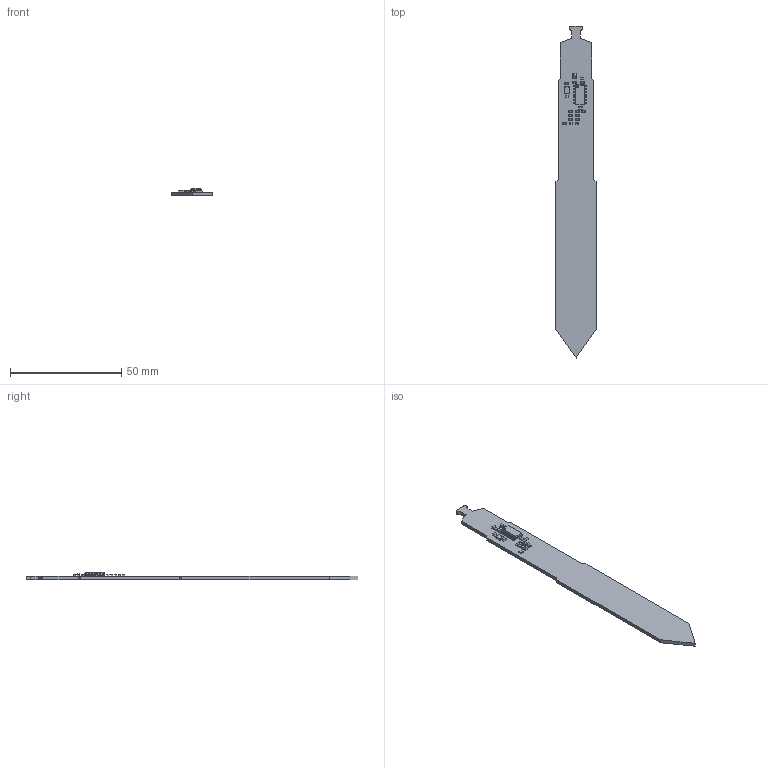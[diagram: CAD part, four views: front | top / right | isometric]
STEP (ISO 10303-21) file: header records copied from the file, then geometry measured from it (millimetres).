
FILE_DESCRIPTION(('KiCad electronic assembly'),'2;1');
FILE_NAME('i2c-moist-sensor.step','2018-12-23T18:41:12',('An Author'),( 'A Company'),'Open CASCADE STEP processor 6.8', 'KiCad to STEP converter','Unknown');
FILE_SCHEMA(('AUTOMOTIVE_DESIGN_CC2 { 1 2 10303 214 -1 1 5 4 }'));
Length unit declared in the file: millimetre
Products named in the file (14): Open CASCADE STEP translator 6.8 1; LED_0603_1608Metric; SOLID; CRY_SMD3225; COMPOUND; User_Library-SOD523-2; User_Library-CAP_SMD-1; User_Library-RES_SMD-1; User_Library-SOIC-14
Assembly tree (27 placements, depth 3):
  Open CASCADE STEP translator 6.8 1
    LED_0603_1608Metric
      SOLID
    CRY_SMD3225
      COMPOUND
    User_Library-SOD523-2  x2
      SOLID
    User_Library-CAP_SMD-1  x6
      SOLID
    User_Library-RES_SMD-1  x9
      SOLID
    User_Library-SOIC-14
      SOLID
    SOLID
Bounding box: 18 x 149 x 3.4 mm (x, y, z)
Volume: 3782.9 mm3; surface area: 5438.8 mm2
Topology: 23 solids, 23 shells, 900 faces, 2226 edges, 1372 vertices
Faces by surface type: plane 736, cylinder 124, sphere 28, cone 12
Entity records: 42346 total; most frequent: CARTESIAN_POINT 17525, DIRECTION 4169, LINE 2634, VECTOR 2634, ORIENTED_EDGE 2368, PCURVE 2368, DEFINITIONAL_REPRESENTATION 2368, EDGE_CURVE 1184
